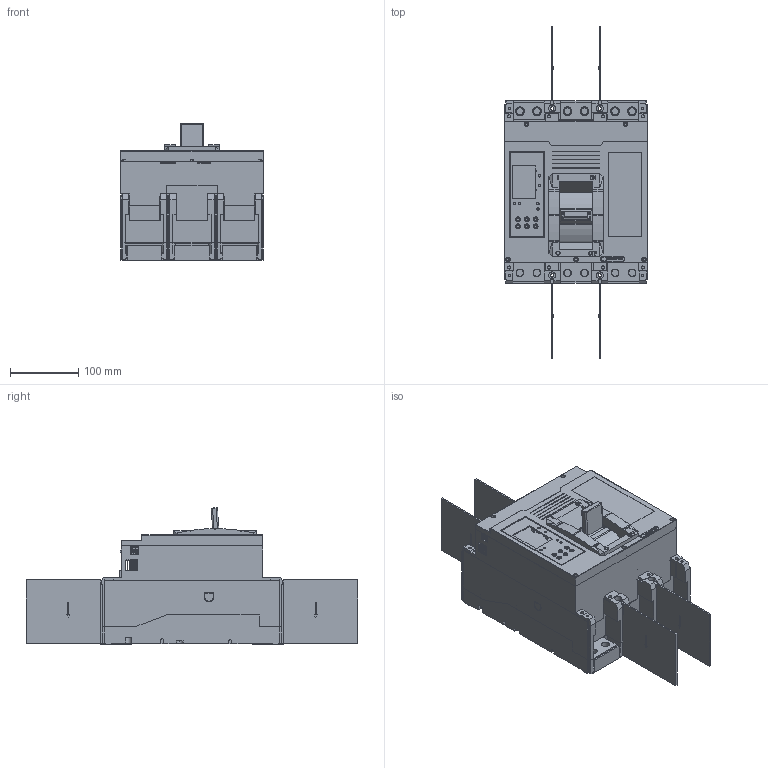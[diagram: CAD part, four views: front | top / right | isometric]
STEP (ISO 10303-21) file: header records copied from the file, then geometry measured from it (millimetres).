
FILE_DESCRIPTION (( 'STEP AP214' ), '1' );
FILE_NAME ('PRO.KVANT_S1-1600S,H–3P+KVA000064STEP.STEP', '2024-10-09T04:06:36', ( '' ), ( '' ), 'SwSTEP 2.0', 'SolidWorks 2018', '' );
FILE_SCHEMA (( 'AUTOMOTIVE_DESIGN' ));
Length unit declared in the file: millimetre
Products named in the file (1): PRO.KVANT_S1-1600S,H–3P+KVA000064STEP
Bounding box: 210 x 487.6 x 200.49 mm (x, y, z)
Volume: 2509592.8 mm3; surface area: 1207510.4 mm2
Topology: 44 solids, 45 shells, 6269 faces, 17818 edges, 11811 vertices
Faces by surface type: plane 5205, cylinder 917, bspline 69, cone 55, torus 15, sphere 8
Full cylindrical faces by diameter (mm): 1 x8, 2 x1, 2.4 x15, 2.5 x3, 2.6 x2, 3 x3, 3.4 x1, 3.5 x23, 4 x35, 4.2 x10, 4.3 x1, 4.5 x10, 4.8 x6, 5 x29, 5.2 x14, 5.4 x12, 6 x23, 6.2 x6, 6.4 x12, 6.5 x5, 7 x4, 7.6 x1, 7.7 x14, 8 x7, 8.2 x14, 8.5 x6, 9 x2, 10 x22, 11 x13, 11.5 x1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
Entity records: 270671 total; most frequent: CARTESIAN_POINT 38627, ORIENTED_EDGE 34530, DIRECTION 31292, EDGE_CURVE 17265, VECTOR 14830, LINE 14830, VERTEX_POINT 11673, AXIS2_PLACEMENT_3D 8231
